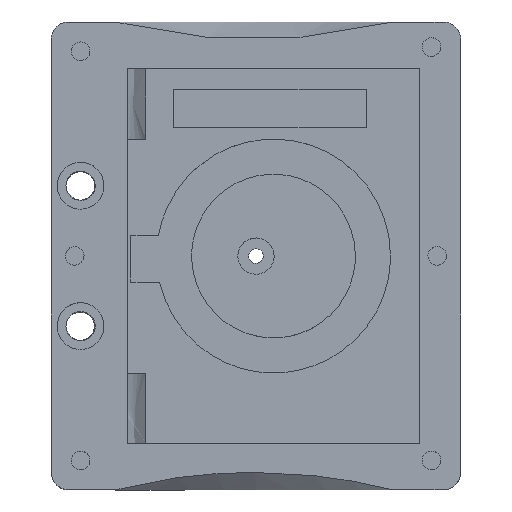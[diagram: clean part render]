
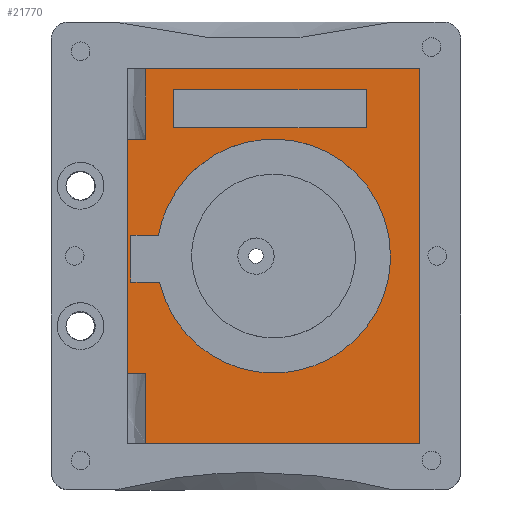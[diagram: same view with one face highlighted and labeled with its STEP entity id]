
A CAD part, top view. The second image highlights one B-rep face of the part: STEP entity #21770.
In plain terms, the highlighted free-form (B-spline) face has degree [1, 1] with [2, 2] control points.
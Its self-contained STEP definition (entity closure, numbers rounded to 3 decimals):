
#18290 = CARTESIAN_POINT ('', (-18.83, -20., -8.));
#18300 = VERTEX_POINT ('', #18290);
#18410 = CARTESIAN_POINT ('', (-18.83, -32., -8.));
#18420 = VERTEX_POINT ('', #18410);
#18430 = CARTESIAN_POINT ('', (-18.83, -20., -8.));
#18440 = CARTESIAN_POINT ('', (-18.83, -24., -8.));
#18450 = CARTESIAN_POINT ('', (-18.83, -28., -8.));
#18460 = CARTESIAN_POINT ('', (-18.83, -32., -8.));
#18470 = B_SPLINE_CURVE_WITH_KNOTS ('', 3, (#18430, #18440, #18450, #18460), .UNSPECIFIED., .F., .U., (4, 4), (0., 12.), .UNSPECIFIED.);
#18480 = EDGE_CURVE ('', #18300, #18420, #18470, .T.);
#19540 = CARTESIAN_POINT ('', (-22., -20., -8.));
#19550 = VERTEX_POINT ('', #19540);
#19560 = CARTESIAN_POINT ('', (-18.83, -20., -8.));
#19570 = CARTESIAN_POINT ('', (-19.887, -20., -8.));
#19580 = CARTESIAN_POINT ('', (-20.943, -20., -8.));
#19590 = CARTESIAN_POINT ('', (-22., -20., -8.));
#19600 = B_SPLINE_CURVE_WITH_KNOTS ('', 3, (#19560, #19570, #19580, #19590), .UNSPECIFIED., .F., .U., (4, 4), (1.76, 4.93), .UNSPECIFIED.);
#19610 = EDGE_CURVE ('', #18300, #19550, #19600, .T.);
#19820 = CARTESIAN_POINT ('', (-22., 20., -8.));
#19830 = VERTEX_POINT ('', #19820);
#19840 = CARTESIAN_POINT ('', (-22., 20., -8.));
#19850 = CARTESIAN_POINT ('', (-22., -20., -8.));
#19860 = B_SPLINE_CURVE_WITH_KNOTS ('', 1, (#19840, #19850), .UNSPECIFIED., .F., .U., (2, 2), (0.188, 0.813), .UNSPECIFIED.);
#19870 = EDGE_CURVE ('', #19830, #19550, #19860, .T.);
#20350 = CARTESIAN_POINT ('', (28., -32., -8.));
#20360 = VERTEX_POINT ('', #20350);
#20370 = CARTESIAN_POINT ('', (28., -32., -8.));
#20380 = CARTESIAN_POINT ('', (-18.83, -32., -8.));
#20390 = B_SPLINE_CURVE_WITH_KNOTS ('', 1, (#20370, #20380), .UNSPECIFIED., .F., .U., (2, 2), (0., 0.937), .UNSPECIFIED.);
#20400 = EDGE_CURVE ('', #20360, #18420, #20390, .T.);
#20630 = ORIENTED_EDGE ('', *, *, #18480, .F.);
#20640 = ORIENTED_EDGE ('', *, *, #19610, .T.);
#20650 = ORIENTED_EDGE ('', *, *, #19870, .F.);
#20660 = CARTESIAN_POINT ('', (-18.83, 20., -8.));
#20670 = VERTEX_POINT ('', #20660);
#20680 = CARTESIAN_POINT ('', (-18.83, 20., -8.));
#20690 = CARTESIAN_POINT ('', (-19.887, 20., -8.));
#20700 = CARTESIAN_POINT ('', (-20.943, 20., -8.));
#20710 = CARTESIAN_POINT ('', (-22., 20., -8.));
#20720 = B_SPLINE_CURVE_WITH_KNOTS ('', 3, (#20680, #20690, #20700, #20710), .UNSPECIFIED., .F., .U., (4, 4), (1.76, 4.93), .UNSPECIFIED.);
#20730 = EDGE_CURVE ('', #20670, #19830, #20720, .T.);
#20740 = ORIENTED_EDGE ('', *, *, #20730, .F.);
#20750 = CARTESIAN_POINT ('', (-18.83, 32., -8.));
#20760 = VERTEX_POINT ('', #20750);
#20770 = CARTESIAN_POINT ('', (-18.83, 20., -8.));
#20780 = CARTESIAN_POINT ('', (-18.83, 24., -8.));
#20790 = CARTESIAN_POINT ('', (-18.83, 28., -8.));
#20800 = CARTESIAN_POINT ('', (-18.83, 32., -8.));
#20810 = B_SPLINE_CURVE_WITH_KNOTS ('', 3, (#20770, #20780, #20790, #20800), .UNSPECIFIED., .F., .U., (4, 4), (0., 12.), .UNSPECIFIED.);
#20820 = EDGE_CURVE ('', #20670, #20760, #20810, .T.);
#20830 = ORIENTED_EDGE ('', *, *, #20820, .T.);
#20840 = CARTESIAN_POINT ('', (28., 32., -8.));
#20850 = VERTEX_POINT ('', #20840);
#20860 = CARTESIAN_POINT ('', (28., 32., -8.));
#20870 = CARTESIAN_POINT ('', (-18.83, 32., -8.));
#20880 = B_SPLINE_CURVE_WITH_KNOTS ('', 1, (#20860, #20870), .UNSPECIFIED., .F., .U., (2, 2), (0., 0.937), .UNSPECIFIED.);
#20890 = EDGE_CURVE ('', #20850, #20760, #20880, .T.);
#20900 = ORIENTED_EDGE ('', *, *, #20890, .F.);
#20910 = CARTESIAN_POINT ('', (28., 32., -8.));
#20920 = CARTESIAN_POINT ('', (28., -32., -8.));
#20930 = B_SPLINE_CURVE_WITH_KNOTS ('', 1, (#20910, #20920), .UNSPECIFIED., .F., .U., (2, 2), (0., 1.), .UNSPECIFIED.);
#20940 = EDGE_CURVE ('', #20850, #20360, #20930, .T.);
#20950 = ORIENTED_EDGE ('', *, *, #20940, .T.);
#20960 = ORIENTED_EDGE ('', *, *, #20400, .T.);
#20970 = EDGE_LOOP ('', (#20630, #20640, #20650, #20740, #20830, #20900, #20950, #20960));
#20980 = FACE_OUTER_BOUND ('', #20970, .T.);
#20990 = CARTESIAN_POINT ('', (-21.396, 3.553, -8.));
#21000 = VERTEX_POINT ('', #20990);
#21010 = CARTESIAN_POINT ('', (-16.682, 3.553, -8.));
#21020 = VERTEX_POINT ('', #21010);
#21030 = CARTESIAN_POINT ('', (-21.396, 3.553, -8.));
#21040 = CARTESIAN_POINT ('', (-16.682, 3.553, -8.));
#21050 = B_SPLINE_CURVE_WITH_KNOTS ('', 1, (#21030, #21040), .UNSPECIFIED., .F., .U., (2, 2), (0., 0.786), .UNSPECIFIED.);
#21060 = EDGE_CURVE ('', #21000, #21020, #21050, .T.);
#21070 = ORIENTED_EDGE ('', *, *, #21060, .F.);
#21080 = CARTESIAN_POINT ('', (-21.396, -4.447, -8.));
#21090 = VERTEX_POINT ('', #21080);
#21100 = CARTESIAN_POINT ('', (-21.396, -4.447, -8.));
#21110 = CARTESIAN_POINT ('', (-21.396, 3.553, -8.));
#21120 = B_SPLINE_CURVE_WITH_KNOTS ('', 1, (#21100, #21110), .UNSPECIFIED., .F., .U., (2, 2), (0., 1.), .UNSPECIFIED.);
#21130 = EDGE_CURVE ('', #21090, #21000, #21120, .T.);
#21140 = ORIENTED_EDGE ('', *, *, #21130, .F.);
#21150 = CARTESIAN_POINT ('', (-16.499, -4.447, -8.));
#21160 = VERTEX_POINT ('', #21150);
#21170 = CARTESIAN_POINT ('', (-21.396, -4.447, -8.));
#21180 = CARTESIAN_POINT ('', (-16.499, -4.447, -8.));
#21190 = B_SPLINE_CURVE_WITH_KNOTS ('', 1, (#21170, #21180), .UNSPECIFIED., .F., .U., (2, 2), (0., 0.816), .UNSPECIFIED.);
#21200 = EDGE_CURVE ('', #21090, #21160, #21190, .T.);
#21210 = ORIENTED_EDGE ('', *, *, #21200, .T.);
#21220 = CARTESIAN_POINT ('', (23., 0., -8.));
#21230 = VERTEX_POINT ('', #21220);
#21240 = CARTESIAN_POINT ('', (-16.499, -4.447, -8.));
#21250 = CARTESIAN_POINT ('', (-12.952, -20., -8.));
#21260 = CARTESIAN_POINT ('', (3., -20., -8.));
#21270 = CARTESIAN_POINT ('', (23., -20., -8.));
#21280 = CARTESIAN_POINT ('', (23., 0., -8.));
#21290 = (
   BOUNDED_CURVE ()
   B_SPLINE_CURVE (2, (#21240, #21250, #21260, #21270, #21280), .UNSPECIFIED., .F., .U.)
   B_SPLINE_CURVE_WITH_KNOTS ((3, 2, 3), (0.538, 0.75, 1.), .UNSPECIFIED.)
   CURVE ()
   GEOMETRIC_REPRESENTATION_ITEM ()
   RATIONAL_B_SPLINE_CURVE ((0.924, 0.752, 1., 0.707, 1.))
   REPRESENTATION_ITEM ('')
);
#21300 = EDGE_CURVE ('', #21160, #21230, #21290, .T.);
#21310 = ORIENTED_EDGE ('', *, *, #21300, .T.);
#21320 = CARTESIAN_POINT ('', (23., 0., -8.));
#21330 = CARTESIAN_POINT ('', (23., 20., -8.));
#21340 = CARTESIAN_POINT ('', (3., 20., -8.));
#21350 = CARTESIAN_POINT ('', (-13.713, 20., -8.));
#21360 = CARTESIAN_POINT ('', (-16.682, 3.553, -8.));
#21370 = (
   BOUNDED_CURVE ()
   B_SPLINE_CURVE (2, (#21320, #21330, #21340, #21350, #21360), .UNSPECIFIED., .F., .U.)
   B_SPLINE_CURVE_WITH_KNOTS ((3, 2, 3), (0., 0.25, 0.469), .UNSPECIFIED.)
   CURVE ()
   GEOMETRIC_REPRESENTATION_ITEM ()
   RATIONAL_B_SPLINE_CURVE ((1., 0.707, 1., 0.743, 0.937))
   REPRESENTATION_ITEM ('')
);
#21380 = EDGE_CURVE ('', #21230, #21020, #21370, .T.);
#21390 = ORIENTED_EDGE ('', *, *, #21380, .T.);
#21400 = EDGE_LOOP ('', (#21070, #21140, #21210, #21310, #21390));
#21410 = FACE_BOUND ('', #21400, .T.);
#21420 = CARTESIAN_POINT ('', (-14.13, 21.983, -8.));
#21430 = VERTEX_POINT ('', #21420);
#21440 = CARTESIAN_POINT ('', (18.87, 21.983, -8.));
#21450 = VERTEX_POINT ('', #21440);
#21460 = CARTESIAN_POINT ('', (-14.13, 21.983, -8.));
#21470 = CARTESIAN_POINT ('', (18.87, 21.983, -8.));
#21480 = B_SPLINE_CURVE_WITH_KNOTS ('', 1, (#21460, #21470), .UNSPECIFIED., .F., .U., (2, 2), (0., 1.), .UNSPECIFIED.);
#21490 = EDGE_CURVE ('', #21430, #21450, #21480, .T.);
#21500 = ORIENTED_EDGE ('', *, *, #21490, .T.);
#21510 = CARTESIAN_POINT ('', (18.87, 28.483, -8.));
#21520 = VERTEX_POINT ('', #21510);
#21530 = CARTESIAN_POINT ('', (18.87, 28.483, -8.));
#21540 = CARTESIAN_POINT ('', (18.87, 21.983, -8.));
#21550 = B_SPLINE_CURVE_WITH_KNOTS ('', 1, (#21530, #21540), .UNSPECIFIED., .F., .U., (2, 2), (0., 1.), .UNSPECIFIED.);
#21560 = EDGE_CURVE ('', #21520, #21450, #21550, .T.);
#21570 = ORIENTED_EDGE ('', *, *, #21560, .F.);
#21580 = CARTESIAN_POINT ('', (-14.13, 28.483, -8.));
#21590 = VERTEX_POINT ('', #21580);
#21600 = CARTESIAN_POINT ('', (-14.13, 28.483, -8.));
#21610 = CARTESIAN_POINT ('', (18.87, 28.483, -8.));
#21620 = B_SPLINE_CURVE_WITH_KNOTS ('', 1, (#21600, #21610), .UNSPECIFIED., .F., .U., (2, 2), (0., 1.), .UNSPECIFIED.);
#21630 = EDGE_CURVE ('', #21590, #21520, #21620, .T.);
#21640 = ORIENTED_EDGE ('', *, *, #21630, .F.);
#21650 = CARTESIAN_POINT ('', (-14.13, 28.483, -8.));
#21660 = CARTESIAN_POINT ('', (-14.13, 21.983, -8.));
#21670 = B_SPLINE_CURVE_WITH_KNOTS ('', 1, (#21650, #21660), .UNSPECIFIED., .F., .U., (2, 2), (0., 1.), .UNSPECIFIED.);
#21680 = EDGE_CURVE ('', #21590, #21430, #21670, .T.);
#21690 = ORIENTED_EDGE ('', *, *, #21680, .T.);
#21700 = EDGE_LOOP ('', (#21500, #21570, #21640, #21690));
#21710 = FACE_BOUND ('', #21700, .T.);
#21720 = CARTESIAN_POINT ('', (28., 32., -8.));
#21730 = CARTESIAN_POINT ('', (-22., 32., -8.));
#21740 = CARTESIAN_POINT ('', (28., -32., -8.));
#21750 = CARTESIAN_POINT ('', (-22., -32., -8.));
#21760 = B_SPLINE_SURFACE_WITH_KNOTS ('', 1, 1, ((#21720, #21730), (#21740, #21750)), .UNSPECIFIED., .F., .F., .U., (2, 2), (2, 2), (0., 1.), (0., 1.), .UNSPECIFIED.);
#21770 = ADVANCED_FACE ('', (#20980, #21410, #21710), #21760, .T.);
